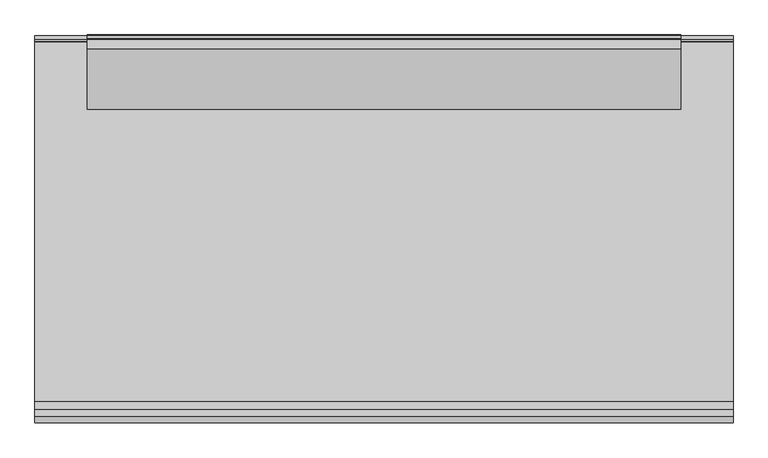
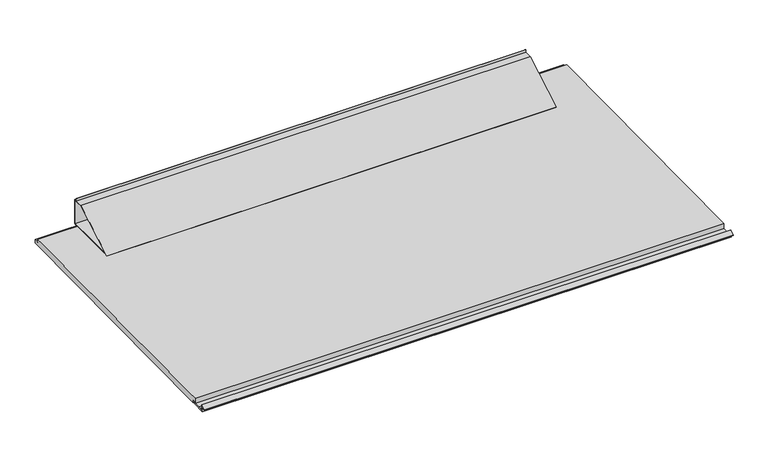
"""IFC4 building model written with IfcOpenShell, lengths in millimetres: proxy geometry, 営_付庇_小 : 付庇_小."""

from ifc_helpers import new_model, si_unit, point, frame, frame_2d, origin, place, context, project, spatial, polyline, circle_curve, trimmed, segment, composite_curve, outline, extrude, source, transform, mapped, element, save


def generic_models_86fe092a(model_context):
    return source(origin(), model_context, "Body", "SweptSolid", [
        extrude(outline(composite_curve([segment(polyline([(-37.6140814, 3319.9351524), (-11.3461322, 3319.9351524), (-11.3461322, 3328.9351524), (-10.3461322, 3328.9351524), (-10.3461322, 3318.9351524), (-1.8461322, 3318.9351524)]), True, "CONTINUOUS"), segment(trimmed(circle_curve(frame_2d((-1.8461322, 3317.4351524)), 1.5), [point((-1.8461322, 3318.9351524))], [point((-0.3461322, 3317.4351524))], False, "CARTESIAN"), True, "CONTINUOUS"), segment(polyline([(-0.3461322, 3317.4351524), (-0.3461322, 3252.0085908), (-1.8327263, 3252.0085908), (-1.8327263, 3235.1294809)]), True, "CONTINUOUS"), segment(trimmed(circle_curve(frame_2d((-5.028506, 3235.1294809)), 3.1957797), [point((-1.8327263, 3235.1294809))], [point((-5.028506, 3231.9337012))], False, "CARTESIAN"), True, "CONTINUOUS"), segment(polyline([(-5.028506, 3231.9337012), (-175.0057255, 3230.2313285)]), True, "CONTINUOUS"), segment(trimmed(circle_curve(frame_2d((-171.8053303, 3230.2659194)), 3.2005822), [point((-175.0057255, 3230.2313285))], [point((-171.8055496, 3233.4665015))], False, "CARTESIAN"), True, "CONTINUOUS"), segment(polyline([(-171.8055496, 3233.4665015), (-5.0461322, 3235.1351524), (-5.0461322, 3317.4351524), (-25.3461322, 3317.4351524), (-25.3461322, 3318.9351524), (-37.3461322, 3318.9351524), (-190.9231912, 3230.267396), (-191.4231912, 3231.1334214), (-37.6140814, 3319.9351524)]), True, "CONTINUOUS")], self_intersect=False)), frame((-765.0, 0.0, 0.0), z_axis=(1.0, 0.0, 0.0), x_axis=(0.0, 1.0, 0.0)), (0.0, 0.0, 1.0), 1530.0),
        extrude(outline(polyline([(-2.5882551, 3209.8545671), (-935.0443021, 3200.5299735), (-935.1352979, 3209.6295153), (-942.1349905, 3209.5595114), (-942.1089918, 3206.959652), (-940.1090918, 3206.979651), (-940.0940922, 3205.479699), (-942.0939926, 3205.4596999), (-942.0439951, 3200.459977), (-988.0414445, 3200.0), (-988.1674389, 3212.5993704), (-1000.0, 3212.4810448), (-1000.0, 3214.1463745), (-985.2697794, 3222.848415), (-985.071593, 3203.0298485), (-965.1165891, 3203.2293992), (-945.0738436, 3203.4298285), (-945.2698338, 3223.0286706), (-17.8134939, 3232.3033182), (-17.7134989, 3222.303909), (-10.9138389, 3222.3719062), (-2.7142489, 3222.4539024), (-2.5882551, 3209.8545671)])), frame((-900.0, 0.0, 0.0), z_axis=(1.0, 0.0, 0.0), x_axis=(0.0, 1.0, 0.0)), (0.0, 0.0, 1.0), 1800.0),
    ])


if __name__ == "__main__":
    model = new_model("IFC4")
    model_context = context("Model", 3, world=origin())
    ifc_project = project(units=[si_unit("LENGTHUNIT", "METRE", prefix="MILLI")], contexts=[model_context])
    site = spatial("IfcSite", under=ifc_project)
    building = spatial("IfcBuilding", under=site)
    placement = place(None, origin())
    generic_models_shape = generic_models_86fe092a(model_context)
    element("IfcBuildingElementProxy", 1, Name="営_付庇_小 : 付庇_小", ObjectType="営_付庇_小 : 付庇_小", at=placement, inside=building, context=model_context, shape_type="MappedRepresentation", body=[
        mapped(generic_models_shape, transform((0.0, 0.0, 0.0), x_axis=(1.0, 0.0, 0.0), y_axis=(0.0, 1.0, 0.0), z_axis=(0.0, 0.0, 1.0))),
    ])
    save(model, "model.ifc")
